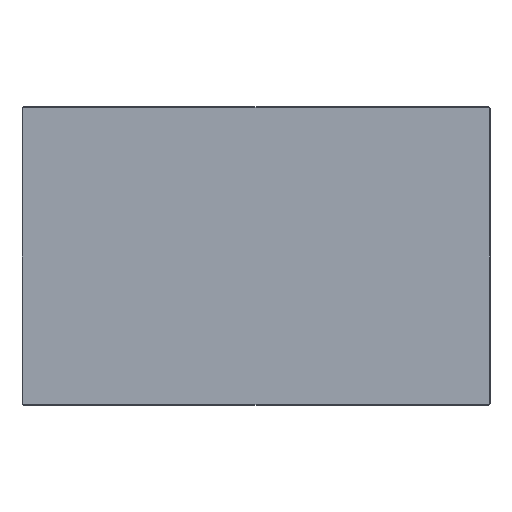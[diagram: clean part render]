
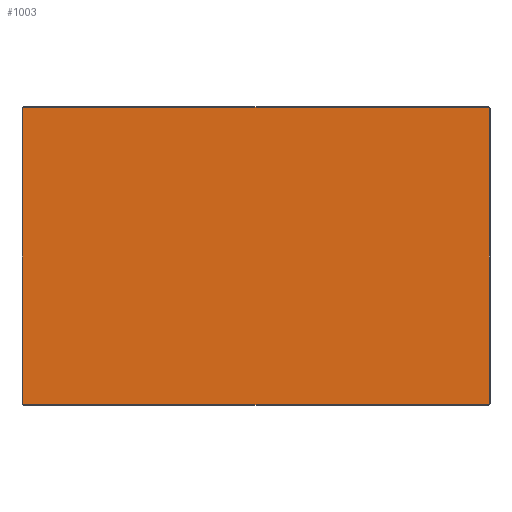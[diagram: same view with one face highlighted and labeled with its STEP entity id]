
A CAD part, top view. The second image highlights one B-rep face of the part: STEP entity #1003.
In plain terms, the highlighted planar face has unit normal (0, 0, 1).
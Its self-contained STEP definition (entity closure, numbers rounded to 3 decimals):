
#85=PLANE('',#3444);
#240=LINE('',#4629,#609);
#243=LINE('',#4636,#612);
#244=LINE('',#4653,#613);
#247=LINE('',#4660,#616);
#609=VECTOR('',#3687,1.);
#612=VECTOR('',#3694,1.);
#613=VECTOR('',#3715,1.);
#616=VECTOR('',#3722,1.);
#1003=ADVANCED_FACE('',(#1179),#85,.T.);
#1179=FACE_OUTER_BOUND('',#1343,.T.);
#1343=EDGE_LOOP('',(#1595,#1596,#1597,#1598,#1599,#1600,#1601,#1602));
#1595=ORIENTED_EDGE('',*,*,#2790,.T.);
#1596=ORIENTED_EDGE('',*,*,#2784,.T.);
#1597=ORIENTED_EDGE('',*,*,#2786,.T.);
#1598=ORIENTED_EDGE('',*,*,#2792,.T.);
#1599=ORIENTED_EDGE('',*,*,#2798,.T.);
#1600=ORIENTED_EDGE('',*,*,#2804,.T.);
#1601=ORIENTED_EDGE('',*,*,#2802,.T.);
#1602=ORIENTED_EDGE('',*,*,#2796,.T.);
#2465=VERTEX_POINT('',#4618);
#2468=VERTEX_POINT('',#4623);
#2470=VERTEX_POINT('',#4628);
#2471=VERTEX_POINT('',#4633);
#2474=VERTEX_POINT('',#4640);
#2475=VERTEX_POINT('',#4645);
#2478=VERTEX_POINT('',#4652);
#2479=VERTEX_POINT('',#4657);
#2784=EDGE_CURVE('',#2465,#2468,#3271,.T.);
#2786=EDGE_CURVE('',#2468,#2470,#240,.T.);
#2790=EDGE_CURVE('',#2471,#2465,#243,.T.);
#2792=EDGE_CURVE('',#2470,#2474,#3275,.T.);
#2796=EDGE_CURVE('',#2475,#2471,#3279,.T.);
#2798=EDGE_CURVE('',#2474,#2478,#244,.T.);
#2802=EDGE_CURVE('',#2479,#2475,#247,.T.);
#2804=EDGE_CURVE('',#2478,#2479,#3283,.T.);
#3271=CIRCLE('',#3390,2.);
#3275=CIRCLE('',#3397,2.);
#3279=CIRCLE('',#3402,2.);
#3283=CIRCLE('',#3409,2.);
#3390=AXIS2_PLACEMENT_3D('',#4624,#3681,#3682);
#3397=AXIS2_PLACEMENT_3D('',#4641,#3699,#3700);
#3402=AXIS2_PLACEMENT_3D('',#4648,#3709,#3710);
#3409=AXIS2_PLACEMENT_3D('',#4663,#3727,#3728);
#3444=AXIS2_PLACEMENT_3D('',#4730,#3813,#3814);
#3681=DIRECTION('',(0.,0.,1.));
#3682=DIRECTION('',(1.,0.,0.));
#3687=DIRECTION('',(0.,1.,0.));
#3694=DIRECTION('',(1.,0.,0.));
#3699=DIRECTION('',(0.,0.,1.));
#3700=DIRECTION('',(1.,0.,0.));
#3709=DIRECTION('',(0.,0.,1.));
#3710=DIRECTION('',(1.,0.,0.));
#3715=DIRECTION('',(-1.,0.,0.));
#3722=DIRECTION('',(0.,-1.,0.));
#3727=DIRECTION('',(0.,0.,1.));
#3728=DIRECTION('',(1.,0.,0.));
#3813=DIRECTION('',(0.,0.,1.));
#3814=DIRECTION('',(1.,0.,0.));
#4618=CARTESIAN_POINT('',(744.546,-33.94,19.656));
#4623=CARTESIAN_POINT('',(746.546,-31.94,19.656));
#4624=CARTESIAN_POINT('',(744.546,-31.94,19.656));
#4628=CARTESIAN_POINT('',(746.546,472.06,19.656));
#4629=CARTESIAN_POINT('',(746.546,220.06,19.656));
#4633=CARTESIAN_POINT('',(-49.454,-33.94,19.656));
#4636=CARTESIAN_POINT('',(347.546,-33.94,19.656));
#4640=CARTESIAN_POINT('',(744.546,474.06,19.656));
#4641=CARTESIAN_POINT('',(744.546,472.06,19.656));
#4645=CARTESIAN_POINT('',(-51.454,-31.94,19.656));
#4648=CARTESIAN_POINT('',(-49.454,-31.94,19.656));
#4652=CARTESIAN_POINT('',(-49.454,474.06,19.656));
#4653=CARTESIAN_POINT('',(347.546,474.06,19.656));
#4657=CARTESIAN_POINT('',(-51.454,472.06,19.656));
#4660=CARTESIAN_POINT('',(-51.454,220.06,19.656));
#4663=CARTESIAN_POINT('',(-49.454,472.06,19.656));
#4730=CARTESIAN_POINT('',(347.546,220.06,19.656));
